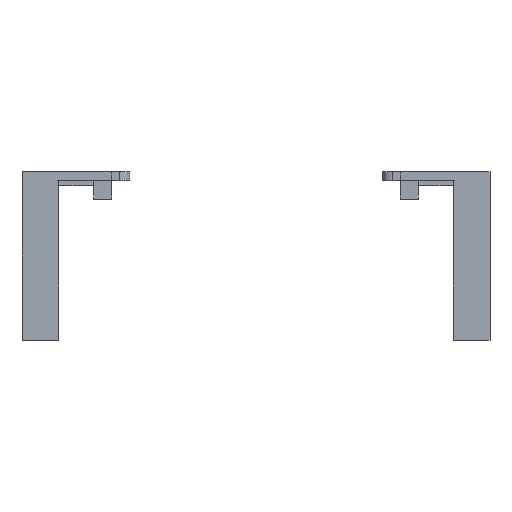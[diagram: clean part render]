
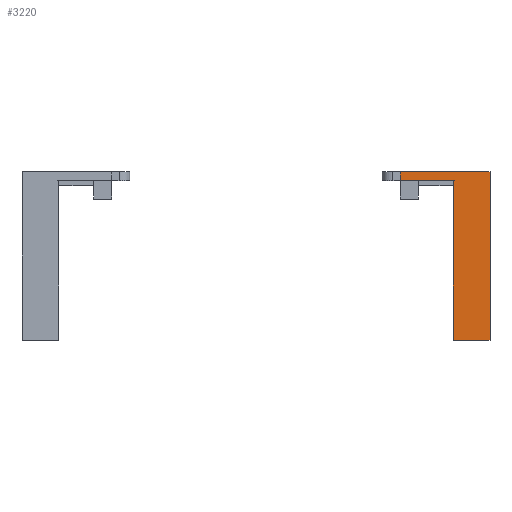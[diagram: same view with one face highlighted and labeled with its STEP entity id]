
A CAD part, left-side view. The second image highlights one B-rep face of the part: STEP entity #3220.
In plain terms, the highlighted planar face has unit normal (-1, 0, 0).
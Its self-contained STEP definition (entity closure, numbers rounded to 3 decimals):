
#895 = VERTEX_POINT ( 'NONE', #5723 ) ;
#961 = CARTESIAN_POINT ( 'NONE',  ( -112.4, -108.101, 90.85 ) ) ;
#1067 = LINE ( 'NONE', #4566, #11763 ) ;
#1097 = VECTOR ( 'NONE', #11962, 1000. ) ;
#1100 = CARTESIAN_POINT ( 'NONE',  ( -112.4, -112.085, 90.85 ) ) ;
#1414 = LINE ( 'NONE', #5677, #1097 ) ;
#1668 = CARTESIAN_POINT ( 'NONE',  ( -112.4, -128.285, 95.65 ) ) ;
#1946 = AXIS2_PLACEMENT_3D ( 'NONE', #10207, #12136, #5951 ) ;
#2235 = VERTEX_POINT ( 'NONE', #961 ) ;
#2520 = VERTEX_POINT ( 'NONE', #1668 ) ;
#2708 = CARTESIAN_POINT ( 'NONE',  ( -112.4, -108.101, 95.662 ) ) ;
#2732 = EDGE_CURVE ( 'NONE', #9162, #8061, #11620, .T. ) ;
#2862 = CARTESIAN_POINT ( 'NONE',  ( -112.4, -108.101, 3.25 ) ) ;
#2961 = PLANE ( 'NONE',  #1946 ) ;
#3169 = DIRECTION ( 'NONE',  ( 0., 1., 0. ) ) ;
#3220 = ADVANCED_FACE ( 'NONE', ( #11588 ), #2961, .F. ) ;
#3274 = EDGE_CURVE ( 'NONE', #2235, #9162, #6027, .T. ) ;
#4385 = EDGE_CURVE ( 'NONE', #2235, #4968, #4512, .T. ) ;
#4512 = LINE ( 'NONE', #2708, #8907 ) ;
#4566 = CARTESIAN_POINT ( 'NONE',  ( -112.4, -128.285, 3.25 ) ) ;
#4771 = ORIENTED_EDGE ( 'NONE', *, *, #2732, .F. ) ;
#4968 = VERTEX_POINT ( 'NONE', #2862 ) ;
#5677 = CARTESIAN_POINT ( 'NONE',  ( -112.4, -128.285, 95.65 ) ) ;
#5723 = CARTESIAN_POINT ( 'NONE',  ( -112.4, -128.285, 3.25 ) ) ;
#5858 = DIRECTION ( 'NONE',  ( 0., 0., -1. ) ) ;
#5951 = DIRECTION ( 'NONE',  ( 0., 1., 0. ) ) ;
#6027 = LINE ( 'NONE', #1100, #8909 ) ;
#6112 = EDGE_CURVE ( 'NONE', #895, #4968, #7454, .T. ) ;
#6747 = CARTESIAN_POINT ( 'NONE',  ( -112.4, -79.085, 90.85 ) ) ;
#6940 = CARTESIAN_POINT ( 'NONE',  ( -112.4, -128.285, 3.25 ) ) ;
#6952 = ORIENTED_EDGE ( 'NONE', *, *, #7495, .F. ) ;
#7239 = CARTESIAN_POINT ( 'NONE',  ( -112.4, -79.085, 95.65 ) ) ;
#7276 = DIRECTION ( 'NONE',  ( 0., 0., 1. ) ) ;
#7285 = CARTESIAN_POINT ( 'NONE',  ( -112.4, -79.085, 95.65 ) ) ;
#7404 = VECTOR ( 'NONE', #7276, 1000. ) ;
#7454 = LINE ( 'NONE', #6940, #9531 ) ;
#7495 = EDGE_CURVE ( 'NONE', #2520, #895, #1067, .T. ) ;
#8061 = VERTEX_POINT ( 'NONE', #7285 ) ;
#8140 = EDGE_CURVE ( 'NONE', #8061, #2520, #1414, .T. ) ;
#8907 = VECTOR ( 'NONE', #5858, 1000. ) ;
#8909 = VECTOR ( 'NONE', #3169, 1000. ) ;
#9162 = VERTEX_POINT ( 'NONE', #6747 ) ;
#9531 = VECTOR ( 'NONE', #9838, 1000. ) ;
#9838 = DIRECTION ( 'NONE',  ( 0., 1., 0. ) ) ;
#10094 = ORIENTED_EDGE ( 'NONE', *, *, #6112, .F. ) ;
#10207 = CARTESIAN_POINT ( 'NONE',  ( -112.4, -128.285, 3.25 ) ) ;
#10709 = ORIENTED_EDGE ( 'NONE', *, *, #4385, .T. ) ;
#10987 = EDGE_LOOP ( 'NONE', ( #4771, #11794, #10709, #10094, #6952, #11158 ) ) ;
#11158 = ORIENTED_EDGE ( 'NONE', *, *, #8140, .F. ) ;
#11588 = FACE_OUTER_BOUND ( 'NONE', #10987, .T. ) ;
#11620 = LINE ( 'NONE', #7239, #7404 ) ;
#11763 = VECTOR ( 'NONE', #11871, 1000. ) ;
#11794 = ORIENTED_EDGE ( 'NONE', *, *, #3274, .F. ) ;
#11871 = DIRECTION ( 'NONE',  ( 0., 0., -1. ) ) ;
#11962 = DIRECTION ( 'NONE',  ( 0., -1., 0. ) ) ;
#12136 = DIRECTION ( 'NONE',  ( 1., 0., 0. ) ) ;
